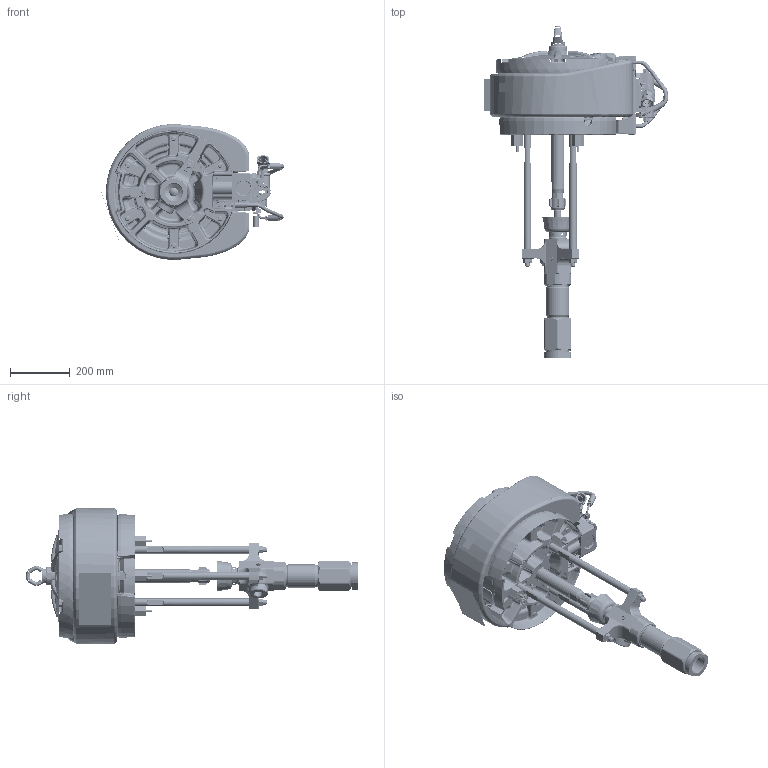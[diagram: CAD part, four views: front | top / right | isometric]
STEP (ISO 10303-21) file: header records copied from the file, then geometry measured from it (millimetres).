
FILE_DESCRIPTION((''),'2;1');
FILE_NAME('24Y223-EN-E_PRT','2020-05-28T13:56:38',('qusrh3'),(''),'CREO PARAMETRIC BY PTC INC, 2019030','CREO PARAMETRIC BY PTC INC, 2019030','');
FILE_SCHEMA(('CONFIG_CONTROL_DESIGN'));
Length unit declared in the file: inch
Products named in the file (1): 24Y223-EN-E_PRT
Bounding box: 615.56 x 1110.97 x 454.59 mm (x, y, z)
Surface area: 3588458.4 mm2 (no closed solid volume)
Topology: 0 solids, 658 shells, 4534 faces, 18226 edges, 13811 vertices
Faces by surface type: plane 1248, bspline 996, cylinder 975, cone 685, torus 614, sphere 10, extrusion 6
Entity records: 264373 total; most frequent: CARTESIAN_POINT 133707, ORIENTED_EDGE 25438, DIRECTION 23003, EDGE_CURVE 18215, VERTEX_POINT 13811, AXIS2_PLACEMENT_3D 9177, B_SPLINE_CURVE_WITH_KNOTS 7933, CIRCLE 5643
